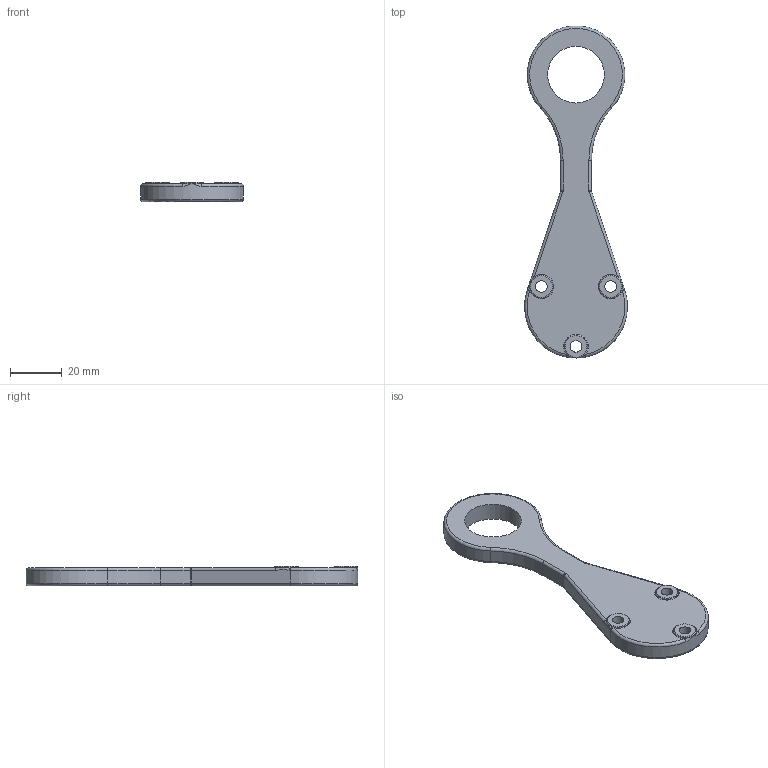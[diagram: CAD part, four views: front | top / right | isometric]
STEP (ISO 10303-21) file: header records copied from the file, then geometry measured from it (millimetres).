
FILE_DESCRIPTION(/* description */ ('STEP AP242 Edition 2','CAx-IF Rec.Pracs.---Representation and Presentation of Product Manufacturing Information (PMI)---4.0---2014-10-13','CAx-IF Rec.Pracs.---3D Tessellated Geometry---0.4---2014-09-14','2;1','CAx-IF Rec.Pracs.---User Defined Attributes---1.5---2016-08-15'),/* implementation_level */ '2;1');
FILE_NAME(/* name */ 'Tarok - Total Assemply - Connector rod',/* time_stamp */ '2026-05-23T09:32:38Z',/* author */ (''),/* organization */ (''),/* preprocessor_version */ 'ST-DEVELOPER v20',/* originating_system */ 'ONSHAPE BY PTC INC, 1.215',/* authorisation */ ' ');
FILE_SCHEMA (('AP242_MANAGED_MODEL_BASED_3D_ENGINEERING_MIM_LF { 1 0 10303 442 3 1 4 }'));
Length unit declared in the file: metre
Products named in the file (1): Connector rod
Bounding box: 39.99 x 128.93 x 7.6 mm (x, y, z)
Volume: 20380.4 mm3; surface area: 8603.8 mm2
Topology: 1 solids, 1 shells, 55 faces, 127 edges, 72 vertices
Faces by surface type: cylinder 23, torus 19, plane 9, bspline 4
Full cylindrical faces by diameter (mm): 4.5 x3, 9 x3, 22 x1
Entity records: 1564 total; most frequent: CARTESIAN_POINT 341, DIRECTION 278, ORIENTED_EDGE 220, AXIS2_PLACEMENT_3D 124, EDGE_CURVE 110, EDGE_LOOP 75, FACE_BOUND 75, CIRCLE 72
